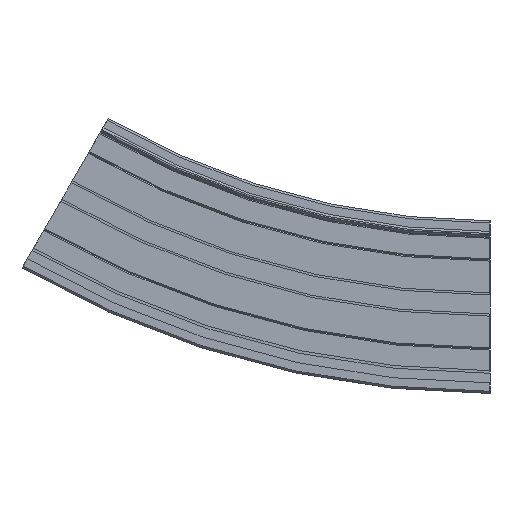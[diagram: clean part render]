
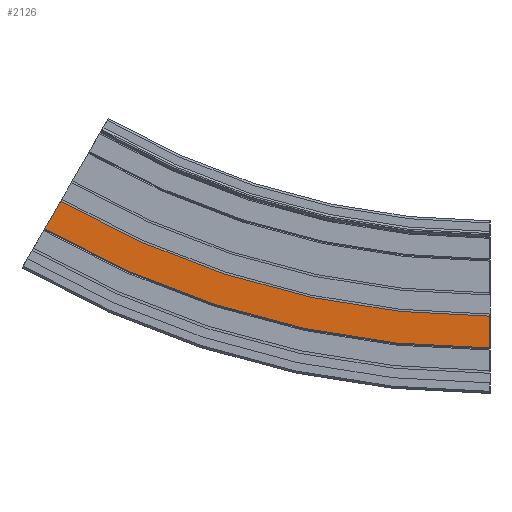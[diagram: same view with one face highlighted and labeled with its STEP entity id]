
A CAD part, left-side view. The second image highlights one B-rep face of the part: STEP entity #2126.
In plain terms, the highlighted planar face has unit normal (-1, 0, 0).
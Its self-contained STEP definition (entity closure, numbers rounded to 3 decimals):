
#214=CIRCLE('',#2314,405.5);
#215=CIRCLE('',#2316,420.5);
#325=FACE_OUTER_BOUND('',#443,.T.);
#443=EDGE_LOOP('',(#1725,#1726,#1727,#1728));
#593=LINE('',#8168,#771);
#594=LINE('',#8170,#772);
#771=VECTOR('',#2772,10.);
#772=VECTOR('',#2773,10.);
#983=VERTEX_POINT('',#8161);
#984=VERTEX_POINT('',#8163);
#985=VERTEX_POINT('',#8167);
#986=VERTEX_POINT('',#8169);
#1271=EDGE_CURVE('',#983,#984,#214,.T.);
#1272=EDGE_CURVE('',#985,#983,#593,.T.);
#1273=EDGE_CURVE('',#986,#984,#594,.T.);
#1274=EDGE_CURVE('',#985,#986,#215,.T.);
#1725=ORIENTED_EDGE('',*,*,#1272,.T.);
#1726=ORIENTED_EDGE('',*,*,#1271,.T.);
#1727=ORIENTED_EDGE('',*,*,#1273,.F.);
#1728=ORIENTED_EDGE('',*,*,#1274,.F.);
#2030=PLANE('',#2315);
#2126=ADVANCED_FACE('',(#325),#2030,.T.);
#2314=AXIS2_PLACEMENT_3D('',#8165,#2768,#2769);
#2315=AXIS2_PLACEMENT_3D('',#8166,#2770,#2771);
#2316=AXIS2_PLACEMENT_3D('',#8171,#2774,#2775);
#2768=DIRECTION('center_axis',(1.,0.,0.));
#2769=DIRECTION('ref_axis',(0.,0.,-1.));
#2770=DIRECTION('center_axis',(-1.,0.,0.));
#2771=DIRECTION('ref_axis',(0.,0.,1.));
#2772=DIRECTION('',(0.,0.,1.));
#2773=DIRECTION('',(0.,-0.5,0.866));
#2774=DIRECTION('center_axis',(1.,0.,0.));
#2775=DIRECTION('ref_axis',(0.,0.,-1.));
#8161=CARTESIAN_POINT('',(-112.,0.,-5.5));
#8163=CARTESIAN_POINT('',(-112.,202.75,48.827));
#8165=CARTESIAN_POINT('Origin',(-112.,0.,400.));
#8166=CARTESIAN_POINT('Origin',(-112.,0.,-20.5));
#8167=CARTESIAN_POINT('',(-112.,0.,-20.5));
#8168=CARTESIAN_POINT('',(-112.,0.,-20.5));
#8169=CARTESIAN_POINT('',(-112.,210.25,35.837));
#8170=CARTESIAN_POINT('',(-112.,210.25,35.837));
#8171=CARTESIAN_POINT('Origin',(-112.,0.,400.));
